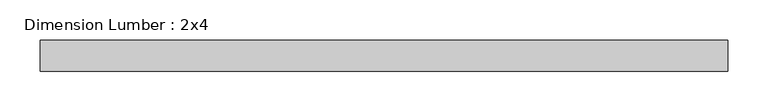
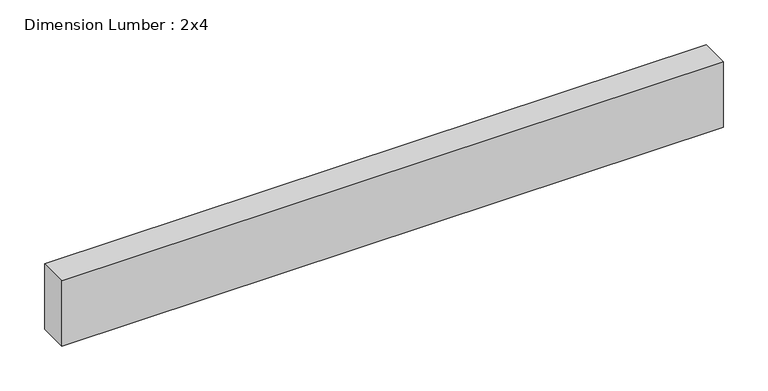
"""IFC4 building model written with IfcOpenShell, lengths in millimetres: beam geometry, Dimension Lumber : 2x4."""

from ifc_helpers import new_model, si_unit, frame, origin, place, context, project, spatial, polyline, outline, extrude, source, transform, mapped, element, save


def dimension_lumber_2x4_6da9f3d8(model_context):
    return source(origin(), model_context, "Body", "SweptSolid", [
        extrude(outline(polyline([(425.45, 19.05), (425.45, -19.05), (-425.45, -19.05), (-425.45, 19.05), (425.45, 19.05)])), frame((0.0, 0.0, -44.45), z_axis=(0.0, 0.0, 1.0), x_axis=(1.0, 0.0, 0.0)), (0.0, 0.0, 1.0), 88.9),
    ])


if __name__ == "__main__":
    model = new_model("IFC4")
    model_context = context("Model", 3, world=origin())
    ifc_project = project(units=[si_unit("LENGTHUNIT", "METRE", prefix="MILLI")], contexts=[model_context])
    site = spatial("IfcSite", under=ifc_project)
    building = spatial("IfcBuilding", under=site)
    placement = place(None, origin())
    dimension_lumber_2x4_shape = dimension_lumber_2x4_6da9f3d8(model_context)
    element("IfcBeam", 1, ObjectType="Dimension Lumber : 2x4", at=placement, inside=building, context=model_context, shape_type="MappedRepresentation", body=[
        mapped(dimension_lumber_2x4_shape, transform((0.0, 0.0, 0.0), x_axis=(1.0, 0.0, 0.0), y_axis=(0.0, 1.0, 0.0), z_axis=(0.0, 0.0, 1.0))),
    ])
    save(model, "model.ifc")
